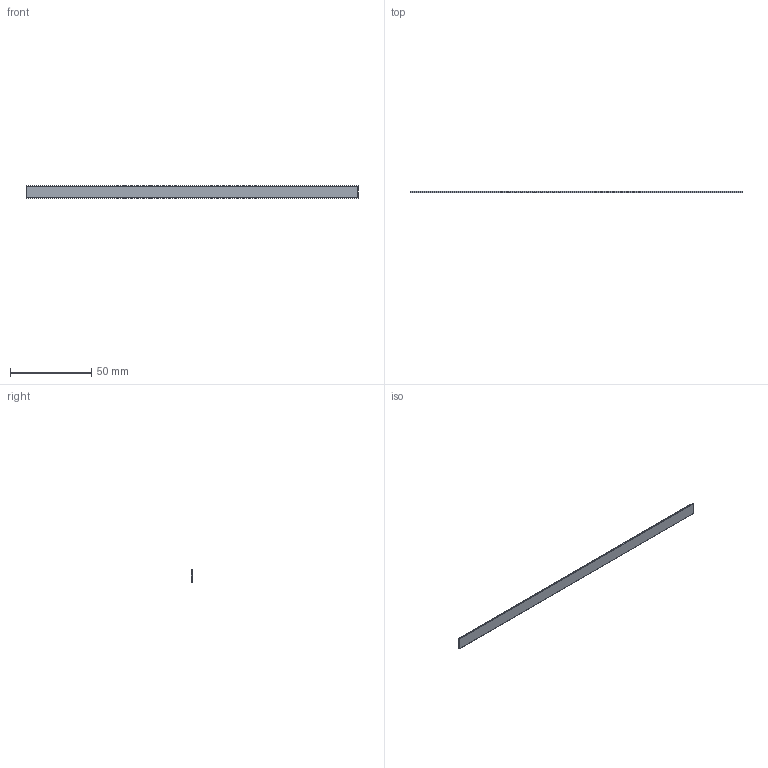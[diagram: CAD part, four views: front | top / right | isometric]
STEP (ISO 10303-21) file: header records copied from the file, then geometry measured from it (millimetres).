
FILE_DESCRIPTION (( 'STEP AP214' ), '1' );
FILE_NAME ('Posic_TPLD03.STEP', '2018-07-20T06:27:05', ( '' ), ( '' ), 'SwSTEP 2.0', 'SolidWorks 2018', '' );
FILE_SCHEMA (( 'AUTOMOTIVE_DESIGN' ));
Length unit declared in the file: millimetre
Products named in the file (1): Posic_TPLD03
Bounding box: 204 x 0.72 x 7.5 mm (x, y, z)
Volume: 1077.1 mm3; surface area: 3446.8 mm2
Topology: 1 solids, 1 shells, 1701 faces, 4080 edges, 2720 vertices
Faces by surface type: plane 1701
Entity records: 66973 total; most frequent: CARTESIAN_POINT 8502, ORIENTED_EDGE 8160, DIRECTION 7484, VECTOR 4080, LINE 4080, EDGE_CURVE 4080, VERTEX_POINT 2720, EDGE_LOOP 2040
